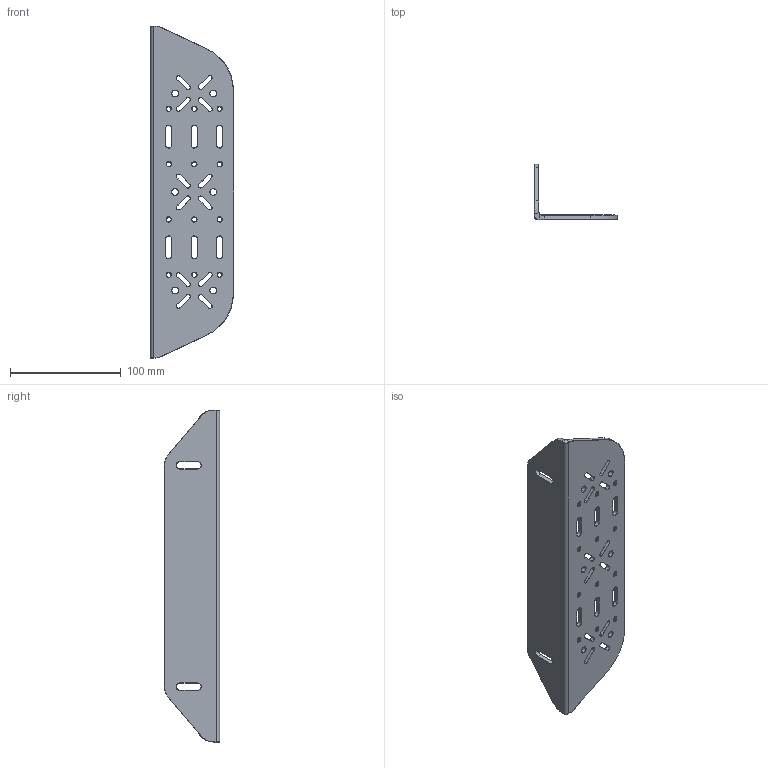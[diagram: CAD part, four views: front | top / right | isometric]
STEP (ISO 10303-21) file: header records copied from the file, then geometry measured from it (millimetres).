
FILE_DESCRIPTION (( 'STEP AP214' ), '1' );
FILE_NAME ('PUB-BR-101337_RevA.STEP', '2023-10-26T18:25:57', ( '' ), ( '' ), 'SwSTEP 2.0', 'SolidWorks 2022', '' );
FILE_SCHEMA (( 'AUTOMOTIVE_DESIGN' ));
Length unit declared in the file: millimetre
Products named in the file (1): PUB-BR-101337_RevA
Bounding box: 75 x 50 x 300 mm (x, y, z)
Volume: 120780.4 mm3; surface area: 67163.3 mm2
Topology: 1 solids, 1 shells, 586 faces, 1498 edges, 914 vertices
Faces by surface type: cylinder 202, cone 196, plane 148, bspline 40
Entity records: 30207 total; most frequent: CARTESIAN_POINT 16828, ORIENTED_EDGE 2996, DIRECTION 2594, EDGE_CURVE 1498, AXIS2_PLACEMENT_3D 949, VERTEX_POINT 914, VECTOR 696, LINE 696
